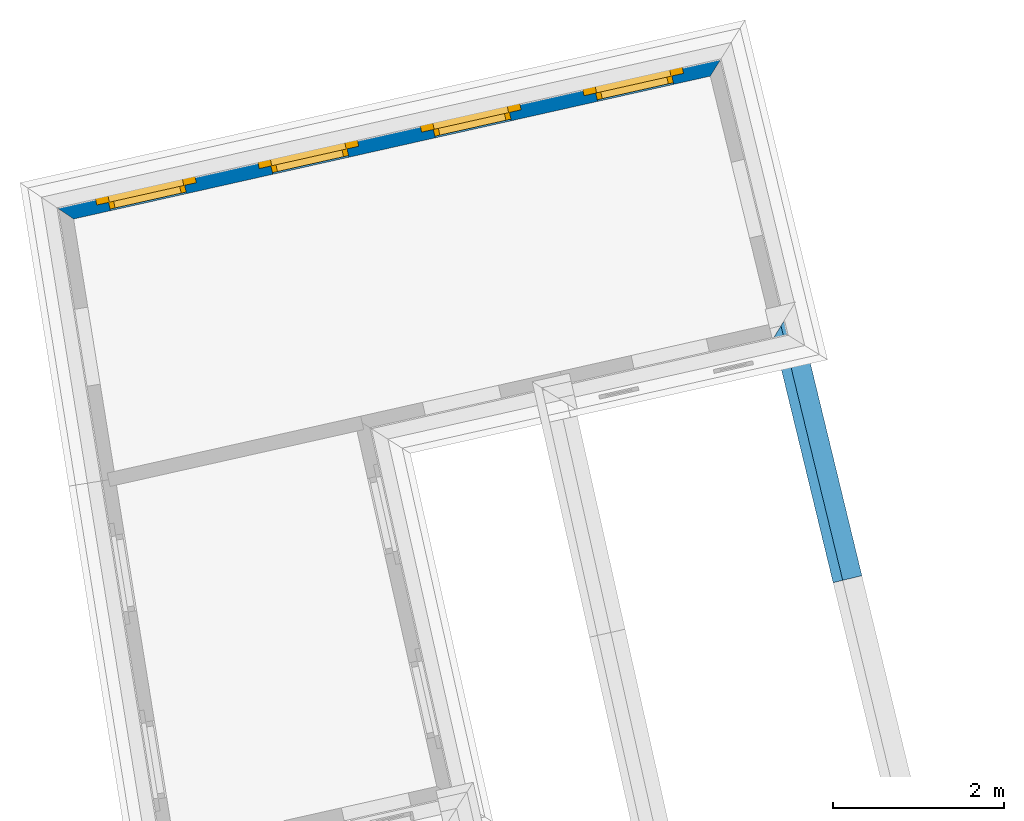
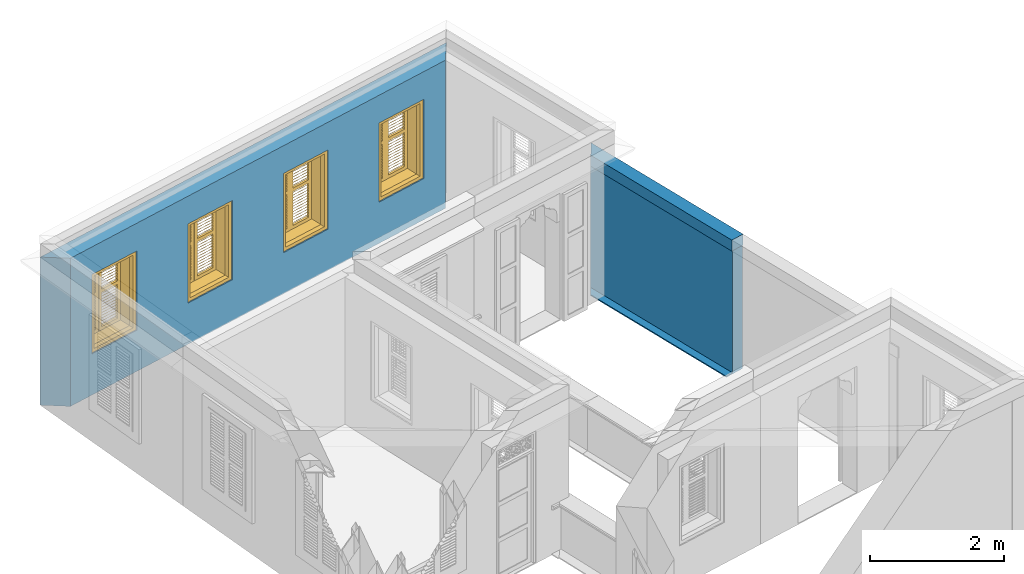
# One storey, part 11 of 15: 4 windows, 3 walls, 4 openings.
"""IFC4 building model written with IfcOpenShell, lengths in metres."""

from ifc_helpers import new_model, si_unit, frame, origin, origin_with_axes, place, context, subcontext, project, spatial, polyline, outline, extrude, clip, halfspace, faceted_brep, source, transform, mapped, material, layer, layer_set, layer_usage, material_profile, profile_set, profile_usage, type_object, type_shapes, element, fill, save


model = new_model("IFC4")

# Units and contexts
model_context = context("Model", 3, world=origin_with_axes())
body_context = subcontext(model_context, "Body", "Model", "MODEL_VIEW")
ifc_project = project(units=[si_unit("PLANEANGLEUNIT", "RADIAN"), si_unit("MASSUNIT", "GRAM", prefix="KILO"), si_unit("FORCEUNIT", "NEWTON", prefix="KILO"), si_unit("LENGTHUNIT", "METRE"), si_unit("AREAUNIT", "SQUARE_METRE"), si_unit("VOLUMEUNIT", "CUBIC_METRE")], contexts=[model_context, model_context])

# Site, building, storey
site_placement = place(None, origin_with_axes())
site = spatial("IfcSite", under=ifc_project, at=site_placement, Name="Site plot-10", CompositionType="ELEMENT")
building_placement = place(None, origin_with_axes())
building = spatial("IfcBuilding", under=site, at=building_placement, Name="Building plot-10", CompositionType="ELEMENT")
storey_placement = place(None, frame((0.0, 0.0, 2.7), z_axis=(0.0, 0.0, 1.0), x_axis=(1.0, 0.0, 0.0)))
storey = spatial("IfcBuildingStorey", under=building, at=storey_placement, Name="plot-10 1", CompositionType="ELEMENT", Elevation=2.7)

# Wall, openings, windows
ifc_material = material(Name="Masonry")
ifc_layer = layer(ifc_material, 0.33, ventilated=False)
ifc_layer_set = layer_set([ifc_layer], Name="exterior_0.08_0.25")
ifc_layer_usage = layer_usage(ifc_layer_set, "AXIS2", "POSITIVE", -0.25)
wall_type_1 = type_object("IfcWallType", Name="exterior_0.08_0.25", PredefinedType="SOLIDWALL", material=ifc_layer_set)
wall_1_placement = place(storey_placement, frame((-17.4267192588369, 21.317473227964, 0.0), z_axis=(0.0, 0.0, 1.0), x_axis=(-0.975741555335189, -0.218925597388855, 0.0)))
wall_1 = element("IfcWall", 1, at=wall_1_placement, inside=storey, type_object=wall_type_1, material=ifc_layer_usage, Name="exterior", context=body_context, shape_type="SweptSolid", body=[
    extrude(outline(polyline([(0.0786356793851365, 0.0800000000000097), (-0.245736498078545, -0.250000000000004), (8.00009198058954, -0.25), (7.6896930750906, 0.0799999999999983), (0.0786356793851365, 0.0800000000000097)])), origin_with_axes(), (0.0, 0.0, 1.0), 2.7),
])
opening_1_placement = place(wall_1_placement, frame((0.515617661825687, 0.0, 0.75)))
opening_1 = element("IfcOpeningElement", 2, at=opening_1_placement, cuts=wall_1, Name="My Opening", ObjectType="Opening", context=body_context, shape_type="SweptSolid", body=[
    extrude(outline(polyline([(0.0, -0.270000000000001), (0.910000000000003, -0.270000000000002), (0.91, 1.1), (-1.4432899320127e-15, 1.1), (0.0, -0.270000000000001)])), origin_with_axes(), (0.0, 0.0, 1.0), 1.445),
])
opening_2_placement = place(wall_1_placement, frame((2.45685298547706, 0.0, 0.75)))
opening_2 = element("IfcOpeningElement", 3, at=opening_2_placement, cuts=wall_1, Name="My Opening", ObjectType="Opening", context=body_context, shape_type="SweptSolid", body=[
    extrude(outline(polyline([(0.0, -0.270000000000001), (0.910000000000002, -0.270000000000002), (0.910000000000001, 1.1), (-2.22044604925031e-15, 1.1), (0.0, -0.270000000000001)])), origin_with_axes(), (0.0, 0.0, 1.0), 1.445),
])
opening_3_placement = place(wall_1_placement, frame((4.39808830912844, 0.0, 0.75)))
opening_3 = element("IfcOpeningElement", 4, at=opening_3_placement, cuts=wall_1, Name="My Opening", ObjectType="Opening", context=body_context, shape_type="SweptSolid", body=[
    extrude(outline(polyline([(0.0, -0.270000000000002), (0.909999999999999, -0.270000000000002), (0.909999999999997, 1.1), (-1.77635683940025e-15, 1.1), (0.0, -0.270000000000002)])), origin_with_axes(), (0.0, 0.0, 1.0), 1.445),
])
opening_4_placement = place(wall_1_placement, frame((6.33932363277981, 0.0, 0.75)))
opening_4 = element("IfcOpeningElement", 5, at=opening_4_placement, cuts=wall_1, Name="My Opening", ObjectType="Opening", context=body_context, shape_type="SweptSolid", body=[
    extrude(outline(polyline([(0.0, -0.270000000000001), (0.910000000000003, -0.270000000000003), (0.910000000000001, 1.1), (-1.77635683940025e-15, 1.1), (0.0, -0.270000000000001)])), origin_with_axes(), (0.0, 0.0, 1.0), 1.445),
])
window_type = type_object("IfcWindowType", Name="shuttered_shorter", PartitioningType="DOUBLE_PANEL_HORIZONTAL", PredefinedType="NOTDEFINED")
shared_shape = source(origin(), body_context, "Body", "Brep", [
    faceted_brep([(0.393, 0.0, 0.622), (0.074, 0.0, 0.622), (0.074, 0.0, 0.632), (0.393, 0.0, 0.632), (0.074, -0.04, 0.592), (0.393, -0.04, 0.592), (0.393, -0.04, 0.582), (0.074, -0.04, 0.582), (0.517, 0.0, 0.682), (0.836, 0.0, 0.682), (0.836, 0.0, 0.672), (0.517, 0.0, 0.672), (0.517, -0.04, 0.642), (0.836, -0.04, 0.642), (0.836, -0.04, 0.632), (0.517, -0.04, 0.632), (0.517, 0.0, 0.632), (0.836, 0.0, 0.632), (0.836, 0.0, 0.622), (0.517, 0.0, 0.622), (0.517, -0.04, 0.592), (0.836, -0.04, 0.592), (0.836, -0.04, 0.582), (0.517, -0.04, 0.582), (0.517, 0.0, 0.232), (0.836, 0.0, 0.232), (0.836, 0.0, 0.222), (0.517, 0.0, 0.222), (0.517, -0.04, 0.192), (0.836, -0.04, 0.192), (0.836, -0.04, 0.182), (0.517, -0.04, 0.182), (0.517, 0.0, 0.532), (0.836, 0.0, 0.532), (0.836, 0.0, 0.522), (0.517, 0.0, 0.522), (0.517, -0.04, 0.492), (0.836, -0.04, 0.492), (0.836, -0.04, 0.482), (0.517, -0.04, 0.482), (0.517, 0.0, 0.482), (0.836, 0.0, 0.482), (0.836, 0.0, 0.472), (0.517, 0.0, 0.472), (0.517, -0.04, 0.442), (0.836, -0.04, 0.442), (0.836, -0.04, 0.432), (0.517, -0.04, 0.432), (0.517, 0.0, 0.582), (0.836, 0.0, 0.582), (0.836, 0.0, 0.572), (0.517, 0.0, 0.572), (0.517, -0.04, 0.542), (0.836, -0.04, 0.542), (0.836, -0.04, 0.532), (0.517, -0.04, 0.532), (0.517, 0.0, 0.182), (0.836, 0.0, 0.182), (0.836, 0.0, 0.172), (0.517, 0.0, 0.172), (0.517, -0.04, 0.142), (0.836, -0.04, 0.142), (0.836, -0.04, 0.132), (0.517, -0.04, 0.132), (0.517, 0.0, 0.382), (0.836, 0.0, 0.382), (0.836, 0.0, 0.372), (0.517, 0.0, 0.372), (0.517, -0.04, 0.342), (0.836, -0.04, 0.342), (0.836, -0.04, 0.332), (0.517, -0.04, 0.332), (0.517, 0.0, 0.432), (0.836, 0.0, 0.432), (0.836, 0.0, 0.422), (0.517, 0.0, 0.422), (0.517, -0.04, 0.392), (0.836, -0.04, 0.392), (0.836, -0.04, 0.382), (0.517, -0.04, 0.382), (0.517, 0.0, 0.132), (0.836, 0.0, 0.132), (0.836, 0.0, 0.122), (0.517, 0.0, 0.122), (0.517, -0.04, 0.092), (0.836, -0.04, 0.092), (0.836, -0.04, 0.082), (0.517, -0.04, 0.082), (0.517, 0.0, 0.282), (0.836, 0.0, 0.282), (0.836, 0.0, 0.272), (0.517, 0.0, 0.272), (0.517, -0.04, 0.242), (0.836, -0.04, 0.242), (0.836, -0.04, 0.232), (0.517, -0.04, 0.232), (0.517, 0.0, 0.332), (0.836, 0.0, 0.332), (0.836, 0.0, 0.322), (0.517, 0.0, 0.322), (0.517, -0.04, 0.292), (0.836, -0.04, 0.292), (0.836, -0.04, 0.282), (0.517, -0.04, 0.282), (0.517, 0.0, 1.362667), (0.836, 0.0, 1.362667), (0.836, 0.0, 1.352667), (0.517, 0.0, 1.352667), (0.517, -0.04, 1.322667), (0.836, -0.04, 1.322667), (0.836, -0.04, 1.312667), (0.517, -0.04, 1.312667), (0.517, 0.0, 1.312667), (0.836, 0.0, 1.312667), (0.836, 0.0, 1.302667), (0.517, 0.0, 1.302667), (0.517, -0.04, 1.272667), (0.836, -0.04, 1.272667), (0.836, -0.04, 1.262667), (0.517, -0.04, 1.262667), (0.517, 0.0, 0.912667), (0.836, 0.0, 0.912667), (0.836, 0.0, 0.902667), (0.517, 0.0, 0.902667), (0.517, -0.04, 0.872667), (0.836, -0.04, 0.872667), (0.836, -0.04, 0.862667), (0.517, -0.04, 0.862667), (0.517, 0.0, 1.212667), (0.836, 0.0, 1.212667), (0.836, 0.0, 1.202667), (0.517, 0.0, 1.202667), (0.517, -0.04, 1.172667), (0.836, -0.04, 1.172667), (0.836, -0.04, 1.162667), (0.517, -0.04, 1.162667), (0.517, 0.0, 1.162667), (0.836, 0.0, 1.162667), (0.836, 0.0, 1.152667), (0.517, 0.0, 1.152667), (0.517, -0.04, 1.122667), (0.836, -0.04, 1.122667), (0.836, -0.04, 1.112667), (0.517, -0.04, 1.112667), (0.517, 0.0, 1.262667), (0.836, 0.0, 1.262667), (0.836, 0.0, 1.252667), (0.517, 0.0, 1.252667), (0.517, -0.04, 1.222667), (0.836, -0.04, 1.222667), (0.836, -0.04, 1.212667), (0.517, -0.04, 1.212667), (0.517, 0.0, 0.862667), (0.836, 0.0, 0.862667), (0.836, 0.0, 0.852667), (0.517, 0.0, 0.852667), (0.517, -0.04, 0.822667), (0.836, -0.04, 0.822667), (0.836, -0.04, 0.812667), (0.517, -0.04, 0.812667), (0.517, 0.0, 1.062667), (0.836, 0.0, 1.062667), (0.836, 0.0, 1.052667), (0.517, 0.0, 1.052667), (0.517, -0.04, 1.022667), (0.836, -0.04, 1.022667), (0.836, -0.04, 1.012667), (0.517, -0.04, 1.012667), (0.517, 0.0, 1.112667), (0.836, 0.0, 1.112667), (0.836, 0.0, 1.102667), (0.517, 0.0, 1.102667), (0.517, -0.04, 1.072667), (0.836, -0.04, 1.072667), (0.836, -0.04, 1.062667), (0.517, -0.04, 1.062667), (0.517, 0.0, 0.812667), (0.836, 0.0, 0.812667), (0.836, 0.0, 0.802667), (0.517, 0.0, 0.802667), (0.517, -0.04, 0.772667), (0.836, -0.04, 0.772667), (0.836, -0.04, 0.762667), (0.517, -0.04, 0.762667), (0.517, 0.0, 0.962667), (0.836, 0.0, 0.962667), (0.836, 0.0, 0.952667), (0.517, 0.0, 0.952667), (0.517, -0.04, 0.922667), (0.836, -0.04, 0.922667), (0.836, -0.04, 0.912667), (0.517, -0.04, 0.912667), (0.517, 0.0, 1.012667), (0.836, 0.0, 1.012667), (0.836, 0.0, 1.002667), (0.517, 0.0, 1.002667), (0.517, -0.04, 0.972667), (0.836, -0.04, 0.972667), (0.836, -0.04, 0.962667), (0.517, -0.04, 0.962667), (0.074, 0.0, 0.682), (0.393, 0.0, 0.682), (0.393, 0.0, 0.672), (0.074, 0.0, 0.672), (0.074, -0.04, 0.642), (0.393, -0.04, 0.642), (0.393, -0.04, 0.632), (0.074, -0.04, 0.632), (0.074, 0.0, 0.232), (0.393, 0.0, 0.232), (0.393, 0.0, 0.222), (0.074, 0.0, 0.222), (0.074, -0.04, 0.192), (0.393, -0.04, 0.192), (0.393, -0.04, 0.182), (0.074, -0.04, 0.182), (0.074, 0.0, 0.532), (0.393, 0.0, 0.532), (0.393, 0.0, 0.522), (0.074, 0.0, 0.522), (0.074, -0.04, 0.492), (0.393, -0.04, 0.492), (0.393, -0.04, 0.482), (0.074, -0.04, 0.482), (0.074, 0.0, 0.482), (0.393, 0.0, 0.482), (0.393, 0.0, 0.472), (0.074, 0.0, 0.472), (0.074, -0.04, 0.442), (0.393, -0.04, 0.442), (0.393, -0.04, 0.432), (0.074, -0.04, 0.432), (0.074, 0.0, 0.582), (0.393, 0.0, 0.582), (0.393, 0.0, 0.572), (0.074, 0.0, 0.572), (0.074, -0.04, 0.542), (0.393, -0.04, 0.542), (0.393, -0.04, 0.532), (0.074, -0.04, 0.532), (0.074, 0.0, 0.182), (0.393, 0.0, 0.182), (0.393, 0.0, 0.172), (0.074, 0.0, 0.172), (0.074, -0.04, 0.142), (0.393, -0.04, 0.142), (0.393, -0.04, 0.132), (0.074, -0.04, 0.132), (0.074, 0.0, 0.382), (0.393, 0.0, 0.382), (0.393, 0.0, 0.372), (0.074, 0.0, 0.372), (0.074, -0.04, 0.342), (0.393, -0.04, 0.342), (0.393, -0.04, 0.332), (0.074, -0.04, 0.332), (0.074, 0.0, 0.432), (0.393, 0.0, 0.432), (0.393, 0.0, 0.422), (0.074, 0.0, 0.422), (0.074, -0.04, 0.392), (0.393, -0.04, 0.392), (0.393, -0.04, 0.382), (0.074, -0.04, 0.382), (0.074, 0.0, 0.132), (0.393, 0.0, 0.132), (0.393, 0.0, 0.122), (0.074, 0.0, 0.122), (0.074, -0.04, 0.092), (0.393, -0.04, 0.092), (0.393, -0.04, 0.082), (0.074, -0.04, 0.082), (0.074, 0.0, 0.282), (0.393, 0.0, 0.282), (0.393, 0.0, 0.272), (0.074, 0.0, 0.272), (0.074, -0.04, 0.242), (0.393, -0.04, 0.242), (0.393, -0.04, 0.232), (0.074, -0.04, 0.232), (0.074, 0.0, 0.332), (0.393, 0.0, 0.332), (0.393, 0.0, 0.322), (0.074, 0.0, 0.322), (0.074, -0.04, 0.292), (0.393, -0.04, 0.292), (0.393, -0.04, 0.282), (0.074, -0.04, 0.282), (0.074, 0.0, 1.362667), (0.393, 0.0, 1.362667), (0.393, 0.0, 1.352667), (0.074, 0.0, 1.352667), (0.074, -0.04, 1.322667), (0.393, -0.04, 1.322667), (0.393, -0.04, 1.312667), (0.074, -0.04, 1.312667), (0.074, 0.0, 1.312667), (0.393, 0.0, 1.312667), (0.393, 0.0, 1.302667), (0.074, 0.0, 1.302667), (0.074, -0.04, 1.272667), (0.393, -0.04, 1.272667), (0.393, -0.04, 1.262667), (0.074, -0.04, 1.262667), (0.074, 0.0, 0.912667), (0.393, 0.0, 0.912667), (0.393, 0.0, 0.902667), (0.074, 0.0, 0.902667), (0.074, -0.04, 0.872667), (0.393, -0.04, 0.872667), (0.393, -0.04, 0.862667), (0.074, -0.04, 0.862667), (0.074, 0.0, 1.212667), (0.393, 0.0, 1.212667), (0.393, 0.0, 1.202667), (0.074, 0.0, 1.202667), (0.074, -0.04, 1.172667), (0.393, -0.04, 1.172667), (0.393, -0.04, 1.162667), (0.074, -0.04, 1.162667), (0.074, 0.0, 1.162667), (0.393, 0.0, 1.162667), (0.393, 0.0, 1.152667), (0.074, 0.0, 1.152667), (0.074, -0.04, 1.122667), (0.393, -0.04, 1.122667), (0.393, -0.04, 1.112667), (0.074, -0.04, 1.112667), (0.074, 0.0, 1.262667), (0.393, 0.0, 1.262667), (0.393, 0.0, 1.252667), (0.074, 0.0, 1.252667), (0.074, -0.04, 1.222667), (0.393, -0.04, 1.222667), (0.393, -0.04, 1.212667), (0.074, -0.04, 1.212667), (0.074, 0.0, 0.862667), (0.393, 0.0, 0.862667), (0.393, 0.0, 0.852667), (0.074, 0.0, 0.852667), (0.074, -0.04, 0.822667), (0.393, -0.04, 0.822667), (0.393, -0.04, 0.812667), (0.074, -0.04, 0.812667), (0.074, 0.0, 1.062667), (0.393, 0.0, 1.062667), (0.393, 0.0, 1.052667), (0.074, 0.0, 1.052667), (0.074, -0.04, 1.022667), (0.393, -0.04, 1.022667), (0.393, -0.04, 1.012667), (0.074, -0.04, 1.012667), (0.074, 0.0, 1.112667), (0.393, 0.0, 1.112667), (0.393, 0.0, 1.102667), (0.074, 0.0, 1.102667), (0.074, -0.04, 1.072667), (0.393, -0.04, 1.072667), (0.393, -0.04, 1.062667), (0.074, -0.04, 1.062667), (0.074, 0.0, 0.812667), (0.393, 0.0, 0.812667), (0.393, 0.0, 0.802667), (0.074, 0.0, 0.802667), (0.074, -0.04, 0.772667), (0.393, -0.04, 0.772667), (0.393, -0.04, 0.762667), (0.074, -0.04, 0.762667), (0.074, 0.0, 0.962667), (0.393, 0.0, 0.962667), (0.393, 0.0, 0.952667), (0.074, 0.0, 0.952667), (0.074, -0.04, 0.922667), (0.393, -0.04, 0.922667), (0.393, -0.04, 0.912667), (0.074, -0.04, 0.912667), (0.074, 0.0, 1.012667), (0.393, 0.0, 1.012667), (0.393, 0.0, 1.002667), (0.074, 0.0, 1.002667), (0.074, -0.04, 0.972667), (0.393, -0.04, 0.972667), (0.393, -0.04, 0.962667), (0.074, -0.04, 0.962667), (0.517, -0.04, 0.072), (0.457, -0.04, 0.012), (0.896, -0.04, 0.012), (0.836, -0.04, 0.072), (0.457, -0.04, 0.692667), (0.517, -0.04, 0.692667), (0.457, 0.0, 0.012), (0.896, 0.0, 0.012), (0.836, -0.04, 0.692667), (0.896, -0.04, 0.692667), (0.836, 0.0, 0.072), (0.517, 0.0, 0.072), (0.457, 0.0, 0.692667), (0.517, 0.0, 0.692667), (0.517, -0.04, 0.752666), (0.457, -0.04, 0.752666), (0.896, 0.0, 0.692667), (0.836, 0.0, 0.692667), (0.836, -0.04, 0.752666), (0.896, -0.04, 0.752666), (0.457, 0.0, 0.752666), (0.457, -0.04, 1.433333), (0.517, -0.04, 1.373333), (0.896, 0.0, 0.752666), (0.836, -0.04, 1.373333), (0.896, -0.04, 1.433333), (0.457, 0.0, 1.433333), (0.517, 0.0, 0.752666), (0.836, 0.0, 0.752666), (0.517, 0.0, 1.373333), (0.896, 0.0, 1.433333), (0.836, 0.0, 1.373333), (0.074, -0.04, 0.072), (0.014, -0.04, 0.012), (0.453, -0.04, 0.012), (0.393, -0.04, 0.072), (0.014, -0.04, 0.692667), (0.074, -0.04, 0.692667), (0.014, 0.0, 0.012), (0.453, 0.0, 0.012), (0.393, -0.04, 0.692667), (0.453, -0.04, 0.692667), (0.393, 0.0, 0.072), (0.074, 0.0, 0.072), (0.014, 0.0, 0.692667), (0.074, 0.0, 0.692667), (0.074, -0.04, 0.752666), (0.014, -0.04, 0.752666), (0.453, 0.0, 0.692667), (0.393, 0.0, 0.692667), (0.393, -0.04, 0.752666), (0.453, -0.04, 0.752666), (0.014, 0.0, 0.752666), (0.014, -0.04, 1.433333), (0.074, -0.04, 1.373333), (0.453, 0.0, 0.752666), (0.393, -0.04, 1.373333), (0.453, -0.04, 1.433333), (0.014, 0.0, 1.433333), (0.074, 0.0, 0.752666), (0.393, 0.0, 0.752666), (0.074, 0.0, 1.373333), (0.453, 0.0, 1.433333), (0.393, 0.0, 1.373333), (0.0, 0.33, 1.445), (0.91, 0.33, 1.445), (0.85, 0.33, 1.385), (0.06, 0.33, 1.385), (0.91, 0.25, 1.445), (0.0, 0.25, 1.445), (0.91, 0.25, 1.445), (0.85, 0.33, 0.06), (0.91, 0.33, 0.0), (0.85, 0.25, 1.385), (0.06, 0.25, 1.385), (0.0, 0.33, 0.0), (0.06, 0.33, 0.06), (0.0, 0.25, 0.0), (0.91, 0.25, 0.0), (0.85, 0.25, 0.06), (0.06, 0.25, 0.06), (1.05, 0.25, 1.585), (-0.14, 0.25, 1.585), (-0.14, -0.03, 1.585), (1.05, -0.03, 1.585), (0.9, -0.03, 1.435), (0.01, -0.03, 1.435), (0.01, 0.25, 1.435), (0.9, 0.25, 1.435), (0.9, 0.25, 0.01), (0.9, -0.03, 0.01), (1.05, -0.03, -0.14), (1.05, 0.25, -0.14), (0.01, -0.03, 0.01), (0.01, 0.25, 0.01), (-0.14, -0.03, -0.14), (-0.14, 0.25, -0.14)], [[[0, 1, 2, 3]], [[4, 5, 3, 2]], [[5, 6, 0, 3]], [[1, 0, 6, 7]], [[2, 1, 7, 4]], [[5, 4, 7, 6]], [[8, 9, 10, 11]], [[12, 13, 9, 8]], [[13, 14, 10, 9]], [[14, 15, 11, 10]], [[15, 12, 8, 11]], [[13, 12, 15, 14]], [[16, 17, 18, 19]], [[20, 21, 17, 16]], [[21, 22, 18, 17]], [[22, 23, 19, 18]], [[23, 20, 16, 19]], [[21, 20, 23, 22]], [[24, 25, 26, 27]], [[28, 29, 25, 24]], [[29, 30, 26, 25]], [[30, 31, 27, 26]], [[31, 28, 24, 27]], [[29, 28, 31, 30]], [[32, 33, 34, 35]], [[36, 37, 33, 32]], [[37, 38, 34, 33]], [[38, 39, 35, 34]], [[39, 36, 32, 35]], [[37, 36, 39, 38]], [[40, 41, 42, 43]], [[44, 45, 41, 40]], [[45, 46, 42, 41]], [[46, 47, 43, 42]], [[47, 44, 40, 43]], [[45, 44, 47, 46]], [[48, 49, 50, 51]], [[52, 53, 49, 48]], [[53, 54, 50, 49]], [[54, 55, 51, 50]], [[55, 52, 48, 51]], [[53, 52, 55, 54]], [[56, 57, 58, 59]], [[60, 61, 57, 56]], [[61, 62, 58, 57]], [[62, 63, 59, 58]], [[63, 60, 56, 59]], [[61, 60, 63, 62]], [[64, 65, 66, 67]], [[68, 69, 65, 64]], [[69, 70, 66, 65]], [[70, 71, 67, 66]], [[71, 68, 64, 67]], [[69, 68, 71, 70]], [[72, 73, 74, 75]], [[76, 77, 73, 72]], [[77, 78, 74, 73]], [[78, 79, 75, 74]], [[79, 76, 72, 75]], [[77, 76, 79, 78]], [[80, 81, 82, 83]], [[84, 85, 81, 80]], [[85, 86, 82, 81]], [[86, 87, 83, 82]], [[87, 84, 80, 83]], [[85, 84, 87, 86]], [[88, 89, 90, 91]], [[92, 93, 89, 88]], [[93, 94, 90, 89]], [[94, 95, 91, 90]], [[95, 92, 88, 91]], [[93, 92, 95, 94]], [[96, 97, 98, 99]], [[100, 101, 97, 96]], [[101, 102, 98, 97]], [[102, 103, 99, 98]], [[103, 100, 96, 99]], [[101, 100, 103, 102]], [[104, 105, 106, 107]], [[108, 109, 105, 104]], [[109, 110, 106, 105]], [[110, 111, 107, 106]], [[111, 108, 104, 107]], [[109, 108, 111, 110]], [[112, 113, 114, 115]], [[116, 117, 113, 112]], [[117, 118, 114, 113]], [[118, 119, 115, 114]], [[119, 116, 112, 115]], [[117, 116, 119, 118]], [[120, 121, 122, 123]], [[124, 125, 121, 120]], [[125, 126, 122, 121]], [[126, 127, 123, 122]], [[127, 124, 120, 123]], [[125, 124, 127, 126]], [[128, 129, 130, 131]], [[132, 133, 129, 128]], [[133, 134, 130, 129]], [[134, 135, 131, 130]], [[135, 132, 128, 131]], [[133, 132, 135, 134]], [[136, 137, 138, 139]], [[140, 141, 137, 136]], [[141, 142, 138, 137]], [[142, 143, 139, 138]], [[139, 143, 140, 136]], [[141, 140, 143, 142]], [[144, 145, 146, 147]], [[148, 149, 145, 144]], [[149, 150, 146, 145]], [[150, 151, 147, 146]], [[151, 148, 144, 147]], [[149, 148, 151, 150]], [[152, 153, 154, 155]], [[156, 157, 153, 152]], [[157, 158, 154, 153]], [[158, 159, 155, 154]], [[159, 156, 152, 155]], [[157, 156, 159, 158]], [[160, 161, 162, 163]], [[164, 165, 161, 160]], [[165, 166, 162, 161]], [[166, 167, 163, 162]], [[167, 164, 160, 163]], [[165, 164, 167, 166]], [[168, 169, 170, 171]], [[172, 173, 169, 168]], [[173, 174, 170, 169]], [[174, 175, 171, 170]], [[175, 172, 168, 171]], [[173, 172, 175, 174]], [[176, 177, 178, 179]], [[180, 181, 177, 176]], [[181, 182, 178, 177]], [[182, 183, 179, 178]], [[183, 180, 176, 179]], [[181, 180, 183, 182]], [[184, 185, 186, 187]], [[188, 189, 185, 184]], [[189, 190, 186, 185]], [[190, 191, 187, 186]], [[191, 188, 184, 187]], [[189, 188, 191, 190]], [[192, 193, 194, 195]], [[196, 197, 193, 192]], [[197, 198, 194, 193]], [[198, 199, 195, 194]], [[199, 196, 192, 195]], [[197, 196, 199, 198]], [[200, 201, 202, 203]], [[204, 205, 201, 200]], [[205, 206, 202, 201]], [[206, 207, 203, 202]], [[207, 204, 200, 203]], [[205, 204, 207, 206]], [[208, 209, 210, 211]], [[212, 213, 209, 208]], [[213, 214, 210, 209]], [[214, 215, 211, 210]], [[215, 212, 208, 211]], [[213, 212, 215, 214]], [[216, 217, 218, 219]], [[220, 221, 217, 216]], [[221, 222, 218, 217]], [[222, 223, 219, 218]], [[223, 220, 216, 219]], [[221, 220, 223, 222]], [[224, 225, 226, 227]], [[228, 229, 225, 224]], [[229, 230, 226, 225]], [[230, 231, 227, 226]], [[231, 228, 224, 227]], [[229, 228, 231, 230]], [[232, 233, 234, 235]], [[236, 237, 233, 232]], [[237, 238, 234, 233]], [[238, 239, 235, 234]], [[239, 236, 232, 235]], [[237, 236, 239, 238]], [[240, 241, 242, 243]], [[244, 245, 241, 240]], [[245, 246, 242, 241]], [[246, 247, 243, 242]], [[247, 244, 240, 243]], [[245, 244, 247, 246]], [[248, 249, 250, 251]], [[252, 253, 249, 248]], [[253, 254, 250, 249]], [[254, 255, 251, 250]], [[255, 252, 248, 251]], [[253, 252, 255, 254]], [[256, 257, 258, 259]], [[260, 261, 257, 256]], [[261, 262, 258, 257]], [[262, 263, 259, 258]], [[263, 260, 256, 259]], [[261, 260, 263, 262]], [[264, 265, 266, 267]], [[268, 269, 265, 264]], [[269, 270, 266, 265]], [[270, 271, 267, 266]], [[271, 268, 264, 267]], [[269, 268, 271, 270]], [[272, 273, 274, 275]], [[276, 277, 273, 272]], [[277, 278, 274, 273]], [[278, 279, 275, 274]], [[279, 276, 272, 275]], [[277, 276, 279, 278]], [[280, 281, 282, 283]], [[284, 285, 281, 280]], [[285, 286, 282, 281]], [[286, 287, 283, 282]], [[287, 284, 280, 283]], [[285, 284, 287, 286]], [[288, 289, 290, 291]], [[292, 293, 289, 288]], [[293, 294, 290, 289]], [[294, 295, 291, 290]], [[295, 292, 288, 291]], [[293, 292, 295, 294]], [[296, 297, 298, 299]], [[300, 301, 297, 296]], [[301, 302, 298, 297]], [[302, 303, 299, 298]], [[303, 300, 296, 299]], [[301, 300, 303, 302]], [[304, 305, 306, 307]], [[308, 309, 305, 304]], [[309, 310, 306, 305]], [[310, 311, 307, 306]], [[311, 308, 304, 307]], [[309, 308, 311, 310]], [[312, 313, 314, 315]], [[316, 317, 313, 312]], [[317, 318, 314, 313]], [[318, 319, 315, 314]], [[319, 316, 312, 315]], [[317, 316, 319, 318]], [[320, 321, 322, 323]], [[324, 325, 321, 320]], [[325, 326, 322, 321]], [[326, 327, 323, 322]], [[327, 324, 320, 323]], [[325, 324, 327, 326]], [[328, 329, 330, 331]], [[332, 333, 329, 328]], [[333, 334, 330, 329]], [[334, 335, 331, 330]], [[335, 332, 328, 331]], [[333, 332, 335, 334]], [[336, 337, 338, 339]], [[340, 341, 337, 336]], [[341, 342, 338, 337]], [[342, 343, 339, 338]], [[343, 340, 336, 339]], [[341, 340, 343, 342]], [[344, 345, 346, 347]], [[348, 349, 345, 344]], [[349, 350, 346, 345]], [[350, 351, 347, 346]], [[351, 348, 344, 347]], [[349, 348, 351, 350]], [[352, 353, 354, 355]], [[356, 357, 353, 352]], [[357, 358, 354, 353]], [[358, 359, 355, 354]], [[359, 356, 352, 355]], [[357, 356, 359, 358]], [[360, 361, 362, 363]], [[364, 365, 361, 360]], [[365, 366, 362, 361]], [[366, 367, 363, 362]], [[367, 364, 360, 363]], [[365, 364, 367, 366]], [[368, 369, 370, 371]], [[372, 373, 369, 368]], [[373, 374, 370, 369]], [[374, 375, 371, 370]], [[375, 372, 368, 371]], [[373, 372, 375, 374]], [[376, 377, 378, 379]], [[380, 381, 377, 376]], [[381, 382, 378, 377]], [[382, 383, 379, 378]], [[383, 380, 376, 379]], [[381, 380, 383, 382]], [[384, 385, 386, 387]], [[388, 385, 384, 389]], [[390, 391, 386, 385]], [[392, 387, 386, 393]], [[384, 387, 394, 395]], [[390, 385, 388, 396]], [[389, 384, 395, 397]], [[389, 398, 399, 388]], [[390, 395, 394, 391]], [[400, 393, 386, 391]], [[387, 392, 401, 394]], [[402, 392, 393, 403]], [[396, 388, 399, 404]], [[390, 396, 397, 395]], [[392, 389, 397, 401]], [[398, 389, 392, 402]], [[405, 399, 398, 406]], [[394, 401, 400, 391]], [[407, 403, 393, 400]], [[408, 402, 403, 409]], [[404, 399, 405, 410]], [[411, 397, 396, 404]], [[397, 411, 412, 401]], [[398, 402, 412, 411]], [[406, 398, 411, 413]], [[405, 406, 408, 409]], [[401, 412, 407, 400]], [[414, 409, 403, 407]], [[402, 408, 415, 412]], [[405, 409, 414, 410]], [[404, 410, 413, 411]], [[408, 406, 413, 415]], [[412, 415, 414, 407]], [[413, 410, 414, 415]], [[416, 417, 418, 419]], [[420, 417, 416, 421]], [[422, 423, 418, 417]], [[424, 419, 418, 425]], [[416, 419, 426, 427]], [[422, 417, 420, 428]], [[421, 416, 427, 429]], [[421, 430, 431, 420]], [[422, 427, 426, 423]], [[432, 425, 418, 423]], [[419, 424, 433, 426]], [[434, 424, 425, 435]], [[428, 420, 431, 436]], [[422, 428, 429, 427]], [[424, 421, 429, 433]], [[430, 421, 424, 434]], [[437, 431, 430, 438]], [[426, 433, 432, 423]], [[439, 435, 425, 432]], [[440, 434, 435, 441]], [[436, 431, 437, 442]], [[443, 429, 428, 436]], [[429, 443, 444, 433]], [[430, 434, 444, 443]], [[438, 430, 443, 445]], [[437, 438, 440, 441]], [[433, 444, 439, 432]], [[446, 441, 435, 439]], [[434, 440, 447, 444]], [[437, 441, 446, 442]], [[436, 442, 445, 443]], [[440, 438, 445, 447]], [[444, 447, 446, 439]], [[445, 442, 446, 447]], [[448, 449, 450, 451]], [[452, 449, 448]], [[448, 453, 454]], [[448, 454, 452]], [[455, 450, 449, 456]], [[451, 450, 457, 458]], [[459, 448, 451, 460]], [[448, 459, 461, 453]], [[454, 453, 458, 457]], [[462, 452, 454]], [[454, 457, 463]], [[454, 463, 462]], [[456, 449, 452, 462]], [[450, 455, 463, 457]], [[456, 459, 460, 455]], [[460, 451, 458, 464]], [[459, 456, 462, 461]], [[464, 458, 453, 461]], [[461, 462, 463, 464]], [[455, 460, 464, 463]], [[465, 466, 467, 468]], [[469, 470, 471, 472]], [[473, 474, 469, 472]], [[465, 468, 475, 476]], [[470, 477, 478, 471]], [[474, 473, 478, 477]], [[474, 477, 479, 475]], [[470, 467, 479, 477]], [[470, 469, 468, 467]], [[474, 475, 468, 469]], [[471, 478, 480, 466]], [[473, 472, 465, 476]], [[473, 476, 480, 478]], [[466, 465, 472, 471]], [[480, 476, 475, 479]], [[480, 479, 467, 466]]]),
])
type_shapes(window_type, [shared_shape])
window_1_placement = place(storey_placement, frame((-17.98893874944, 21.4680415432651, 0.75), z_axis=(0.0, 0.0, 1.0), x_axis=(-0.887924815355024, -0.199222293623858, 0.0)))
window_1 = element("IfcWindow", 6, at=window_1_placement, inside=storey, type_object=window_type, Name="living outside window", OverallHeight=1.445, OverallWidth=0.91, context=body_context, shape_type="MappedRepresentation", body=[
    mapped(shared_shape, transform((0.0, 0.0, 0.0), scale=1.0)),
])
fill(opening_1, window_1)
window_2_placement = place(storey_placement, frame((-19.8830827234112, 21.0430554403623, 0.75), z_axis=(0.0, 0.0, 1.0), x_axis=(-0.887924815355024, -0.199222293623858, 0.0)))
window_2 = element("IfcWindow", 7, at=window_2_placement, inside=storey, type_object=window_type, Name="living outside window", OverallHeight=1.445, OverallWidth=0.91, context=body_context, shape_type="MappedRepresentation", body=[
    mapped(shared_shape, transform((0.0, 0.0, 0.0), scale=1.0)),
])
fill(opening_2, window_2)
window_3_placement = place(storey_placement, frame((-21.7772266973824, 20.6180693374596, 0.75), z_axis=(0.0, 0.0, 1.0), x_axis=(-0.887924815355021, -0.199222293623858, 0.0)))
window_3 = element("IfcWindow", 8, at=window_3_placement, inside=storey, type_object=window_type, Name="living outside window", OverallHeight=1.445, OverallWidth=0.91, context=body_context, shape_type="MappedRepresentation", body=[
    mapped(shared_shape, transform((0.0, 0.0, 0.0), scale=1.0)),
])
fill(opening_3, window_3)
window_4_placement = place(storey_placement, frame((-23.6713706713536, 20.1930832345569, 0.75), z_axis=(0.0, 0.0, 1.0), x_axis=(-0.887924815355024, -0.199222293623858, 0.0)))
window_4 = element("IfcWindow", 9, at=window_4_placement, inside=storey, type_object=window_type, Name="living outside window", OverallHeight=1.445, OverallWidth=0.91, context=body_context, shape_type="MappedRepresentation", body=[
    mapped(shared_shape, transform((0.0, 0.0, 0.0), scale=1.0)),
])
fill(opening_4, window_4)

# Walls
ifc_material_profile_1 = material_profile(None, outline(polyline([(0.25, 0.0), (0.25, 2.245), (0.05, 2.245), (0.05, 0.02), (-0.08, 0.02), (-0.08, 0.0), (0.25, 0.0)])))
ifc_profile_set_1 = profile_set([ifc_material_profile_1])
ifc_profile_usage_1 = profile_usage(ifc_profile_set_1)
wall_type_2 = type_object("IfcWallType", Name="parapet street_0", PredefinedType="PARAPET", material=ifc_profile_set_1)
wall_2_placement = place(storey_placement, frame((-16.9229600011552, 19.2401698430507, 0.0), z_axis=(0.235675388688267, -0.971831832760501, 0.0), x_axis=(0.971831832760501, 0.235675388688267, 0.0)))
element("IfcWall", 10, at=wall_2_placement, inside=storey, type_object=wall_type_2, material=ifc_profile_usage_1, Name="parapet street_0", context=body_context, shape_type="Clipping", body=[
    clip(clip(extrude(outline(polyline([(0.25, 0.0), (0.25, 2.245), (0.05, 2.245), (0.05, 0.02), (-0.08, 0.02), (-0.08, 0.0), (0.25, 0.0)])), origin_with_axes(), (0.0, 0.0, 1.0), 5.02013944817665), halfspace(frame((0.0, 0.0, 4.02013944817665), z_axis=(8.26946079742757e-16, 0.0, -1.0), x_axis=(0.0, 1.0, 0.0)), True)), halfspace(frame((0.0, 0.0, 1.0), z_axis=(-0.707106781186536, 0.0, -0.707106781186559), x_axis=(0.0, 1.0, 0.0)), False)),
])
ifc_material_profile_2 = material_profile(None, outline(polyline([(0.265, 2.245), (0.265, 2.445), (0.035, 2.445), (0.035, 2.245), (0.265, 2.245)])))
ifc_profile_set_2 = profile_set([ifc_material_profile_2])
ifc_profile_usage_2 = profile_usage(ifc_profile_set_2)
wall_type_3 = type_object("IfcWallType", Name="parapet street_1", PredefinedType="PARAPET", material=ifc_profile_set_2)
wall_3_placement = place(storey_placement, frame((-16.9229600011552, 19.2401698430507, 0.0), z_axis=(0.235675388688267, -0.971831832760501, 0.0), x_axis=(0.971831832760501, 0.235675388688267, 0.0)))
element("IfcWall", 11, at=wall_3_placement, inside=storey, type_object=wall_type_3, material=ifc_profile_usage_2, Name="parapet street_1", context=body_context, shape_type="Clipping", body=[
    clip(clip(extrude(outline(polyline([(0.265, 2.245), (0.265, 2.445), (0.035, 2.445), (0.035, 2.245), (0.265, 2.245)])), origin_with_axes(), (0.0, 0.0, 1.0), 5.02013944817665), halfspace(frame((0.0, 0.0, 4.02013944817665), z_axis=(8.26946079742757e-16, 0.0, -1.0), x_axis=(0.0, 1.0, 0.0)), True)), halfspace(frame((0.0, 0.0, 1.0), z_axis=(-0.707106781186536, 0.0, -0.707106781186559), x_axis=(0.0, 1.0, 0.0)), False)),
])

save(model, "model.ifc")
